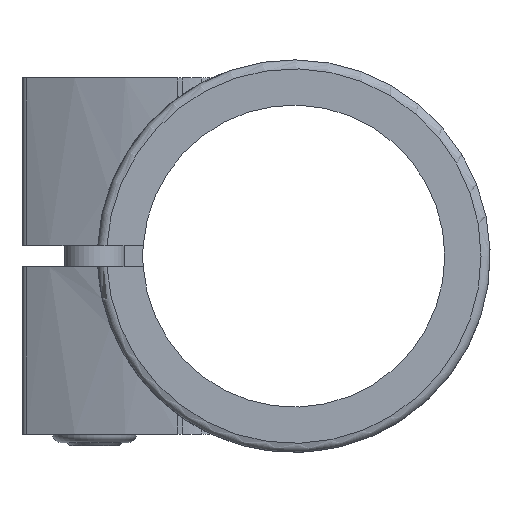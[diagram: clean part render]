
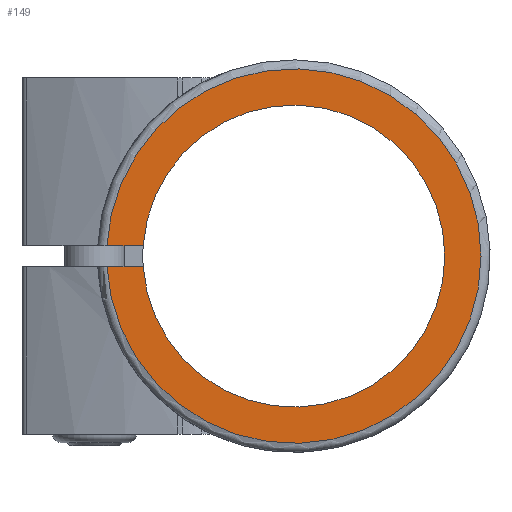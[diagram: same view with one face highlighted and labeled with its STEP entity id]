
A CAD part, left-side view. The second image highlights one B-rep face of the part: STEP entity #149.
In plain terms, the highlighted planar face has unit normal (-1, 0, 0).
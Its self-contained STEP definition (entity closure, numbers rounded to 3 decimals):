
#149 = ADVANCED_FACE( '', ( #404 ), #405, .F. );
#404 = FACE_OUTER_BOUND( '', #758, .T. );
#405 = PLANE( '', #759 );
#758 = EDGE_LOOP( '', ( #1549, #1550, #1551, #1552 ) );
#759 = AXIS2_PLACEMENT_3D( '', #1553, #1554, #1555 );
#1549 = ORIENTED_EDGE( '', *, *, #2522, .F. );
#1550 = ORIENTED_EDGE( '', *, *, #2273, .F. );
#1551 = ORIENTED_EDGE( '', *, *, #2526, .F. );
#1552 = ORIENTED_EDGE( '', *, *, #2287, .F. );
#1553 = CARTESIAN_POINT( '', ( 0., 0., 0. ) );
#1554 = DIRECTION( '', ( 1., 0., 0. ) );
#1555 = DIRECTION( '', ( 0., 0., -1. ) );
#2273 = EDGE_CURVE( '', #2710, #2711, #2712, .T. );
#2287 = EDGE_CURVE( '', #2737, #2739, #2740, .T. );
#2522 = EDGE_CURVE( '', #2711, #2737, #3156, .F. );
#2526 = EDGE_CURVE( '', #2739, #2710, #3160, .T. );
#2710 = VERTEX_POINT( '', #3442 );
#2711 = VERTEX_POINT( '', #3443 );
#2712 = LINE( '', #3444, #3445 );
#2737 = VERTEX_POINT( '', #3489 );
#2739 = VERTEX_POINT( '', #3492 );
#2740 = LINE( '', #3493, #3494 );
#3156 = CIRCLE( '', #4261, 25. );
#3160 = CIRCLE( '', #4265, 31. );
#3442 = CARTESIAN_POINT( '', ( 0., 30.951, -1.75 ) );
#3443 = CARTESIAN_POINT( '', ( 0., 24.939, -1.75 ) );
#3444 = CARTESIAN_POINT( '', ( 0., 0., -1.75 ) );
#3445 = VECTOR( '', #4753, 1000. );
#3489 = CARTESIAN_POINT( '', ( 0., 24.939, 1.75 ) );
#3492 = CARTESIAN_POINT( '', ( 0., 30.951, 1.75 ) );
#3493 = CARTESIAN_POINT( '', ( 0., 0., 1.75 ) );
#3494 = VECTOR( '', #4776, 1000. );
#4261 = AXIS2_PLACEMENT_3D( '', #5137, #5138, #5139 );
#4265 = AXIS2_PLACEMENT_3D( '', #5149, #5150, #5151 );
#4753 = DIRECTION( '', ( 0., -1., 0. ) );
#4776 = DIRECTION( '', ( 0., 1., 0. ) );
#5137 = CARTESIAN_POINT( '', ( 0., 0., 0. ) );
#5138 = DIRECTION( '', ( 1., 0., 0. ) );
#5139 = DIRECTION( '', ( 0., 0., -1. ) );
#5149 = CARTESIAN_POINT( '', ( 0., 0., 0. ) );
#5150 = DIRECTION( '', ( 1., 0., 0. ) );
#5151 = DIRECTION( '', ( 0., 0., -1. ) );
